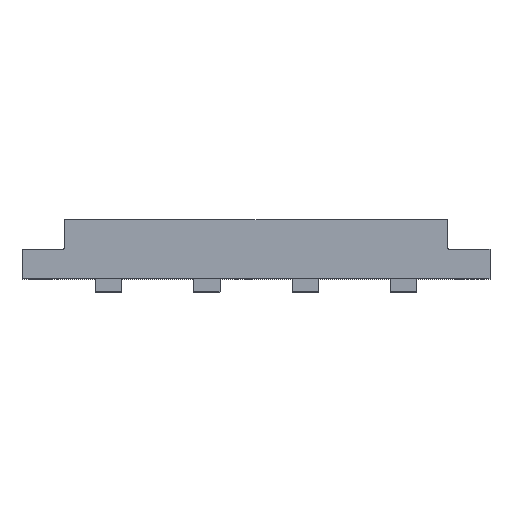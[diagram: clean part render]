
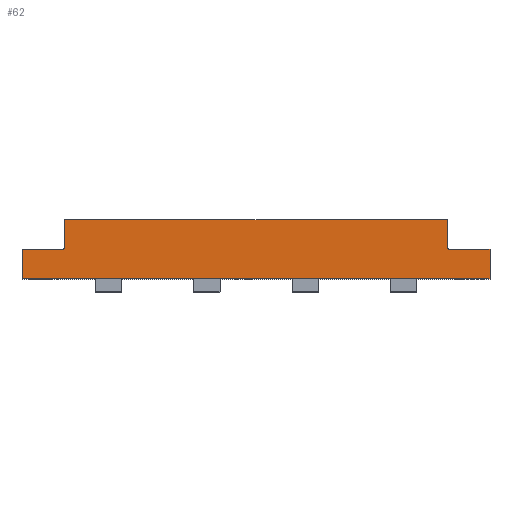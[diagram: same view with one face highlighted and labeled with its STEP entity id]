
A CAD part, top view. The second image highlights one B-rep face of the part: STEP entity #62.
In plain terms, the highlighted planar face has unit normal (0, 0, 1).
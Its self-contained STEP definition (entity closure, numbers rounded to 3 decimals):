
#62=ADVANCED_FACE('',(#582),#584,.T.);
#582=FACE_BOUND('',#583,.T.);
#583=EDGE_LOOP('',(#1101,#1102,#1103,#1104,#1105,#1106,#1107,#1108,#1109,#1110));
#584=PLANE('',#585);
#585=AXIS2_PLACEMENT_3D('',#586,#587,#588);
#586=CARTESIAN_POINT('',(71.5,0.,90.));
#587=DIRECTION('',(0.,0.,1.));
#588=DIRECTION('',(-1.,0.,0.));
#1101=ORIENTED_EDGE('',*,*,#1337,.F.);
#1102=ORIENTED_EDGE('',*,*,#1338,.T.);
#1103=ORIENTED_EDGE('',*,*,#1336,.T.);
#1104=ORIENTED_EDGE('',*,*,#1339,.F.);
#1105=ORIENTED_EDGE('',*,*,#1340,.F.);
#1106=ORIENTED_EDGE('',*,*,#1341,.T.);
#1107=ORIENTED_EDGE('',*,*,#1342,.F.);
#1108=ORIENTED_EDGE('',*,*,#1343,.T.);
#1109=ORIENTED_EDGE('',*,*,#1344,.T.);
#1110=ORIENTED_EDGE('',*,*,#1345,.T.);
#1336=EDGE_CURVE('',#1451,#1456,#1458,.T.);
#1337=EDGE_CURVE('',#1459,#1460,#1461,.F.);
#1338=EDGE_CURVE('',#1459,#1451,#1462,.T.);
#1339=EDGE_CURVE('',#1463,#1456,#1464,.T.);
#1340=EDGE_CURVE('',#1465,#1463,#1466,.T.);
#1341=EDGE_CURVE('',#1465,#1467,#1468,.T.);
#1342=EDGE_CURVE('',#1469,#1467,#1470,.F.);
#1343=EDGE_CURVE('',#1469,#1471,#1472,.F.);
#1344=EDGE_CURVE('',#1471,#1473,#1474,.T.);
#1345=EDGE_CURVE('',#1473,#1460,#1475,.F.);
#1451=VERTEX_POINT('',#1661);
#1456=VERTEX_POINT('',#1670);
#1458=LINE('',#1674,#1675);
#1459=VERTEX_POINT('',#1677);
#1460=VERTEX_POINT('',#1678);
#1461=CIRCLE('',#1679,0.5);
#1462=LINE('',#1683,#1684);
#1463=VERTEX_POINT('',#1686);
#1464=LINE('',#1687,#1688);
#1465=VERTEX_POINT('',#1690);
#1466=LINE('',#1691,#1692);
#1467=VERTEX_POINT('',#1694);
#1468=LINE('',#1695,#1696);
#1469=VERTEX_POINT('',#1698);
#1470=CIRCLE('',#1699,0.5);
#1471=VERTEX_POINT('',#1703);
#1472=LINE('',#1704,#1705);
#1473=VERTEX_POINT('',#1707);
#1474=LINE('',#1708,#1709);
#1475=LINE('',#1711,#1712);
#1661=CARTESIAN_POINT('',(-71.5,-9.,90.));
#1670=CARTESIAN_POINT('',(-71.5,-18.,90.));
#1674=CARTESIAN_POINT('',(-71.5,-9.,90.));
#1675=VECTOR('',#1676,1.);
#1676=DIRECTION('',(0.,-1.,0.));
#1677=CARTESIAN_POINT('',(-59.,-9.,90.));
#1678=CARTESIAN_POINT('',(-58.5,-8.5,90.));
#1679=AXIS2_PLACEMENT_3D('',#1680,#1681,#1682);
#1680=CARTESIAN_POINT('',(-59.,-8.5,90.));
#1681=DIRECTION('',(0.,0.,-1.));
#1682=DIRECTION('',(1.,0.,0.));
#1683=CARTESIAN_POINT('',(-59.,-9.,90.));
#1684=VECTOR('',#1685,1.);
#1685=DIRECTION('',(-1.,0.,0.));
#1686=CARTESIAN_POINT('',(71.5,-18.,90.));
#1687=CARTESIAN_POINT('',(71.5,-18.,90.));
#1688=VECTOR('',#1689,1.);
#1689=DIRECTION('',(-1.,0.,0.));
#1690=CARTESIAN_POINT('',(71.5,-9.,90.));
#1691=CARTESIAN_POINT('',(71.5,-9.,90.));
#1692=VECTOR('',#1693,1.);
#1693=DIRECTION('',(0.,-1.,0.));
#1694=CARTESIAN_POINT('',(59.,-9.,90.));
#1695=CARTESIAN_POINT('',(71.5,-9.,90.));
#1696=VECTOR('',#1697,1.);
#1697=DIRECTION('',(-1.,0.,0.));
#1698=CARTESIAN_POINT('',(58.5,-8.5,90.));
#1699=AXIS2_PLACEMENT_3D('',#1700,#1701,#1702);
#1700=CARTESIAN_POINT('',(59.,-8.5,90.));
#1701=DIRECTION('',(0.,0.,-1.));
#1702=DIRECTION('',(0.,-1.,0.));
#1703=CARTESIAN_POINT('',(58.5,0.,90.));
#1704=CARTESIAN_POINT('',(58.5,0.,90.));
#1705=VECTOR('',#1706,1.);
#1706=DIRECTION('',(0.,-1.,0.));
#1707=CARTESIAN_POINT('',(-58.5,0.,90.));
#1708=CARTESIAN_POINT('',(58.5,0.,90.));
#1709=VECTOR('',#1710,1.);
#1710=DIRECTION('',(-1.,0.,0.));
#1711=CARTESIAN_POINT('',(-58.5,-8.5,90.));
#1712=VECTOR('',#1713,1.);
#1713=DIRECTION('',(0.,1.,0.));
